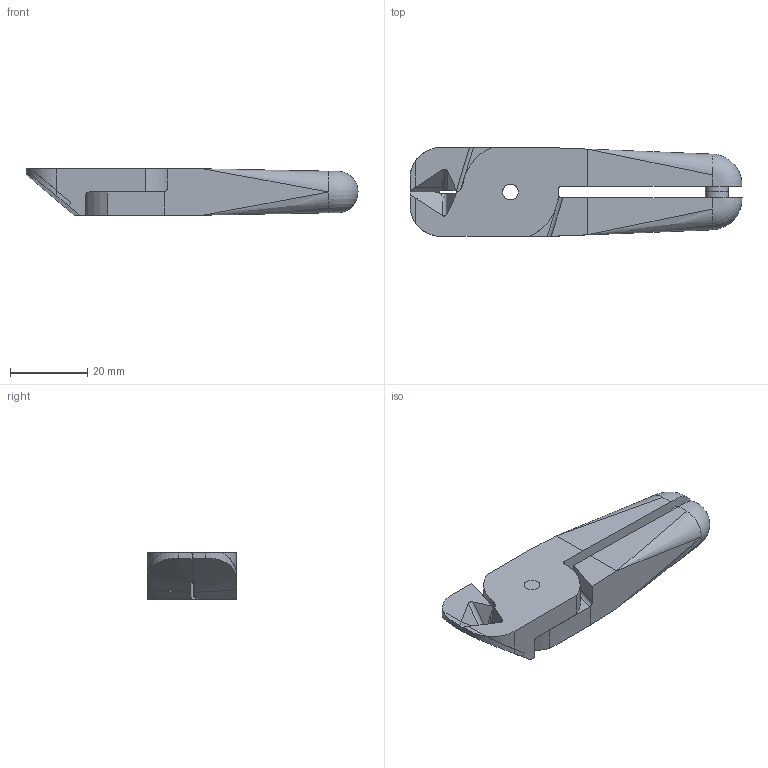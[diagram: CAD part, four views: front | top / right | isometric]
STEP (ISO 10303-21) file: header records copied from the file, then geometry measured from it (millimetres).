
FILE_DESCRIPTION (( 'STEP AP214' ), '1' );
FILE_NAME ('N20HS.STEP', '2019-11-29T02:32:08', ( '微软用户' ), ( '微软中国' ), 'SwSTEP 2.0', 'SolidWorks 2016', '' );
FILE_SCHEMA (( 'AUTOMOTIVE_DESIGN' ));
Length unit declared in the file: millimetre
Products named in the file (1): N20HS
Bounding box: 86 x 23 x 12 mm (x, y, z)
Surface area: 8449.4 mm2 (no closed solid volume)
Topology: 0 solids, 9 shells, 87 faces, 297 edges, 206 vertices
Faces by surface type: plane 59, cylinder 19, bspline 9
Full cylindrical faces by diameter (mm): 4.1 x2
Entity records: 6955 total; most frequent: CARTESIAN_POINT 4019, ORIENTED_EDGE 490, DIRECTION 396, EDGE_CURVE 288, VERTEX_POINT 206, LINE 188, VECTOR 188, AXIS2_PLACEMENT_3D 104
